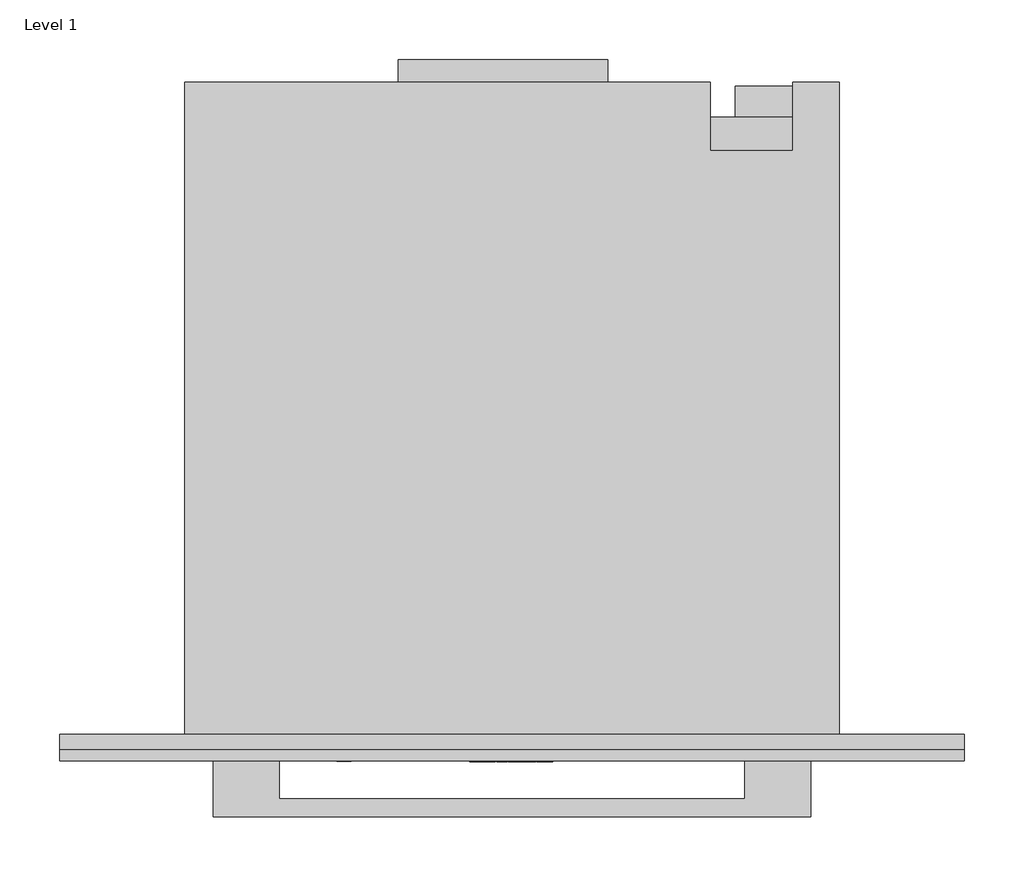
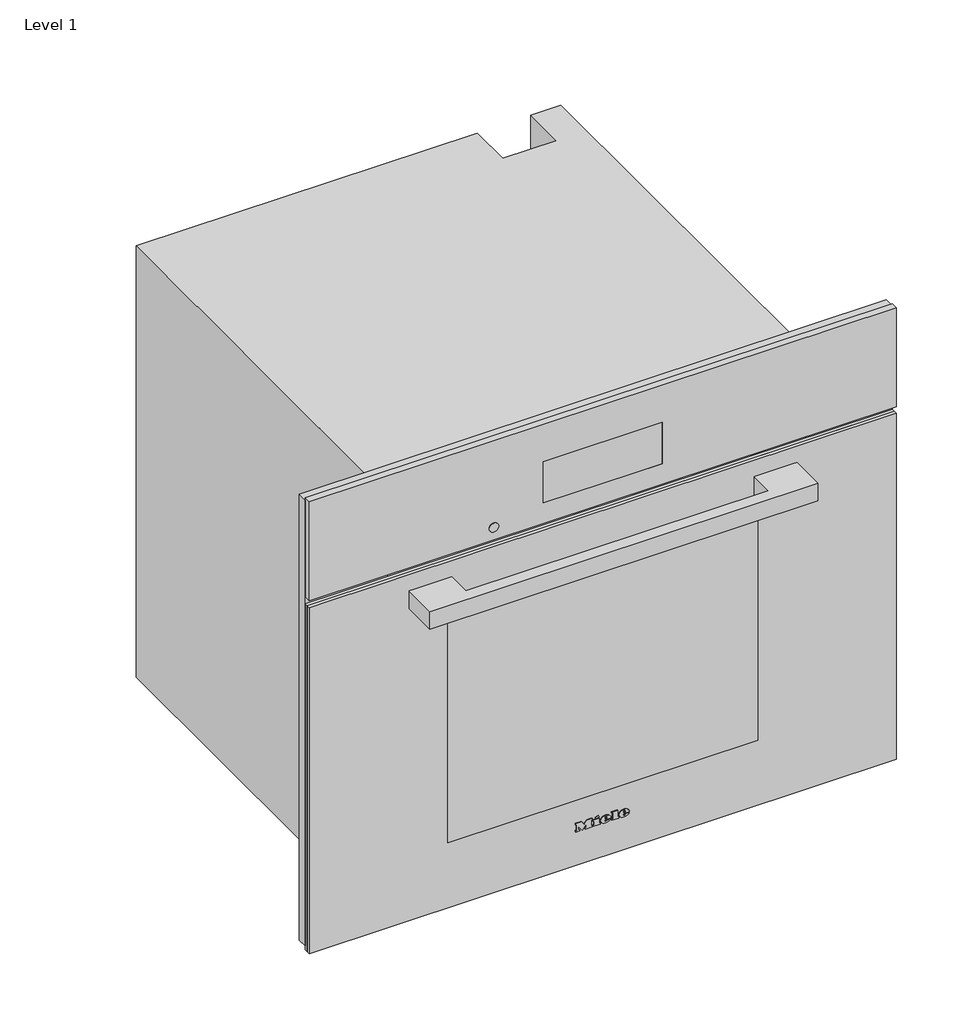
# One storey: 1 proxy.
"""IFC4 building model written with IfcOpenShell, lengths in millimetres."""

from ifc_helpers import new_model, si_unit, origin, place, context, project, spatial, transform, mapped, element, save
from components import specialty_equipment_2a973225

model = new_model("IFC4")

# Units and contexts
model_context = context("Model", 3, world=origin())
ifc_project = project(units=[si_unit("LENGTHUNIT", "METRE", prefix="MILLI")], contexts=[model_context])

# Site, building, storey
site = spatial("IfcSite", under=ifc_project)
building = spatial("IfcBuilding", under=site)
storey = spatial("IfcBuildingStorey", under=building, Name="Level 1", Elevation=0.0)

# Proxy
placement = place(None, origin())
specialty_equipment_shape = specialty_equipment_2a973225(model_context)
element("IfcBuildingElementProxy", 1, Name="11876420_USA_DGC7880_OBSW : 23788023_USA_11876420_DGC7880_OBSW", ObjectType="11876420_USA_DGC7880_OBSW : 23788023_USA_11876420_DGC7880_OBSW", at=placement, inside=storey, context=model_context, shape_type="MappedRepresentation", body=[
    mapped(specialty_equipment_shape, transform((0.0, 0.0, 0.0), x_axis=(1.0, 0.0, 0.0), y_axis=(0.0, 1.0, 0.0), z_axis=(0.0, 0.0, 1.0))),
])

save(model, "model.ifc")
